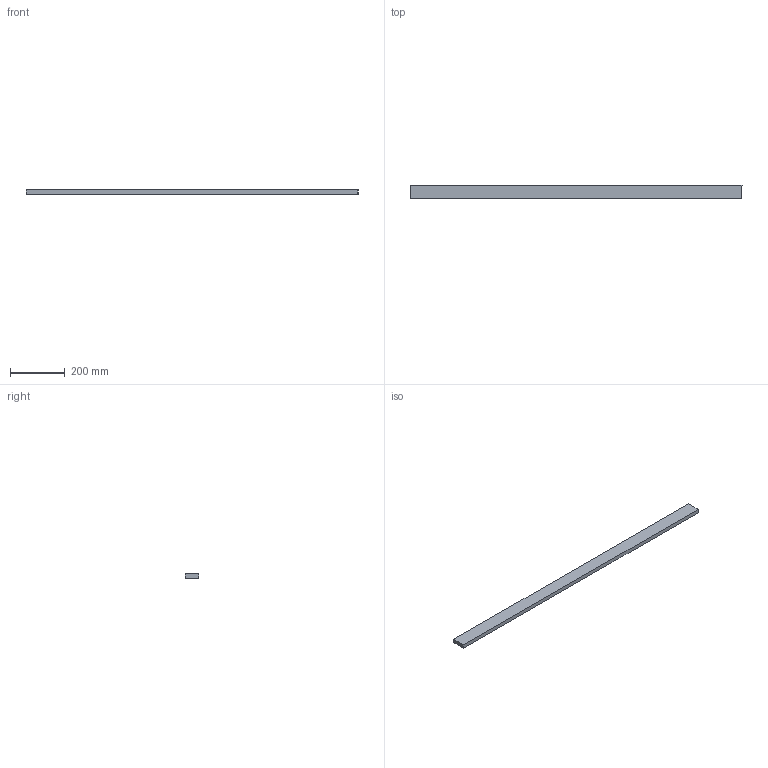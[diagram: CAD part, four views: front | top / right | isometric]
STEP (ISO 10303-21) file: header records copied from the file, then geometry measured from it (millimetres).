
FILE_DESCRIPTION(/* description */ (''),/* implementation_level */ '2;1');
FILE_NAME(/* name */ 'Pos103-Plaatwerk D= 15-S235JRG2-10st',/* time_stamp */ '2024-08-06T13:49:48+02:00',/* author */ (''),/* organization */ (''),/* preprocessor_version */ 'ST-DEVELOPER v16.5',/* originating_system */ 'HiCAD 2024 2901.2 Build 361',/* authorisation */ '');
FILE_SCHEMA (('AUTOMOTIVE_DESIGN { 1 0 10303 214 1 1 1 1 }'));
Length unit declared in the file: millimetre
Products named in the file (1): Pos103-Plaatwerk D= 15-S235JRG2-10st
Bounding box: 1210 x 50 x 15 mm (x, y, z)
Volume: 907500 mm3; surface area: 158800 mm2
Topology: 1 solids, 1 shells, 6 faces, 12 edges, 8 vertices
Faces by surface type: plane 6
Entity records: 294 total; most frequent: CARTESIAN_POINT 26, PRESENTATION_STYLE_ASSIGNMENT 25, COLOUR_RGB 25, DRAUGHTING_PRE_DEFINED_CURVE_FONT 24, CURVE_STYLE 24, OVER_RIDING_STYLED_ITEM 24, ORIENTED_EDGE 24, DIRECTION 24
